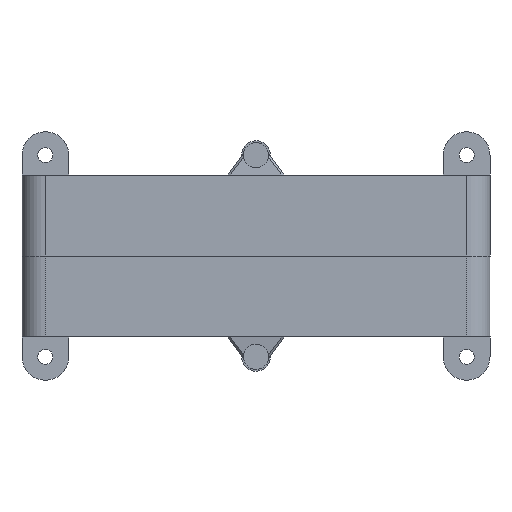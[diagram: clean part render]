
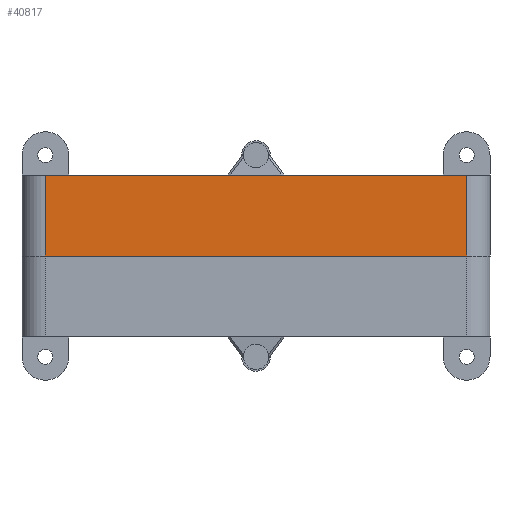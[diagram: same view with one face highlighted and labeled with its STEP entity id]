
A CAD part, front view. The second image highlights one B-rep face of the part: STEP entity #40817.
In plain terms, the highlighted planar face has unit normal (0, -1, 0).
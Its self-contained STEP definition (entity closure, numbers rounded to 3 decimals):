
#1328 = LINE ( 'NONE', #1587, #20177 ) ;
#1587 = CARTESIAN_POINT ( 'NONE',  ( 65., 0., 22.5 ) ) ;
#2908 = DIRECTION ( 'NONE',  ( 0., 0., -1. ) ) ;
#4375 = DIRECTION ( 'NONE',  ( 0., 0., 1. ) ) ;
#4916 = AXIS2_PLACEMENT_3D ( 'NONE', #34421, #46902, #22763 ) ;
#6162 = EDGE_LOOP ( 'NONE', ( #22987, #35035, #37554, #49798 ) ) ;
#10559 = CARTESIAN_POINT ( 'NONE',  ( -58.5, 0., 0. ) ) ;
#10612 = EDGE_CURVE ( 'NONE', #21100, #29550, #44095, .T. ) ;
#12793 = EDGE_CURVE ( 'NONE', #29550, #32268, #25220, .T. ) ;
#13471 = EDGE_CURVE ( 'NONE', #19615, #21100, #19503, .T. ) ;
#14599 = FACE_OUTER_BOUND ( 'NONE', #6162, .T. ) ;
#16925 = VECTOR ( 'NONE', #24193, 1000. ) ;
#17409 = DIRECTION ( 'NONE',  ( 1., 0., 0. ) ) ;
#18290 = CARTESIAN_POINT ( 'NONE',  ( 58.5, 0., 22.5 ) ) ;
#19503 = LINE ( 'NONE', #10559, #38661 ) ;
#19615 = VERTEX_POINT ( 'NONE', #37749 ) ;
#20177 = VECTOR ( 'NONE', #17409, 1000. ) ;
#21100 = VERTEX_POINT ( 'NONE', #24696 ) ;
#22263 = PLANE ( 'NONE',  #4916 ) ;
#22763 = DIRECTION ( 'NONE',  ( -1., 0., 0. ) ) ;
#22987 = ORIENTED_EDGE ( 'NONE', *, *, #10612, .T. ) ;
#24193 = DIRECTION ( 'NONE',  ( 1., 0., 0. ) ) ;
#24696 = CARTESIAN_POINT ( 'NONE',  ( -58.5, 0., 0. ) ) ;
#25073 = VECTOR ( 'NONE', #4375, 1000. ) ;
#25220 = LINE ( 'NONE', #29454, #25073 ) ;
#29454 = CARTESIAN_POINT ( 'NONE',  ( 58.5, 0., 22.5 ) ) ;
#29550 = VERTEX_POINT ( 'NONE', #34932 ) ;
#32268 = VERTEX_POINT ( 'NONE', #18290 ) ;
#33801 = EDGE_CURVE ( 'NONE', #19615, #32268, #1328, .T. ) ;
#34421 = CARTESIAN_POINT ( 'NONE',  ( 65., 0., 22.5 ) ) ;
#34932 = CARTESIAN_POINT ( 'NONE',  ( 58.5, 0., 0. ) ) ;
#35035 = ORIENTED_EDGE ( 'NONE', *, *, #12793, .T. ) ;
#35862 = CARTESIAN_POINT ( 'NONE',  ( 65., 0., 0. ) ) ;
#37554 = ORIENTED_EDGE ( 'NONE', *, *, #33801, .F. ) ;
#37749 = CARTESIAN_POINT ( 'NONE',  ( -58.5, 0., 22.5 ) ) ;
#38661 = VECTOR ( 'NONE', #2908, 1000. ) ;
#40817 = ADVANCED_FACE ( 'NONE', ( #14599 ), #22263, .F. ) ;
#44095 = LINE ( 'NONE', #35862, #16925 ) ;
#46902 = DIRECTION ( 'NONE',  ( 0., 1., 0. ) ) ;
#49798 = ORIENTED_EDGE ( 'NONE', *, *, #13471, .T. ) ;
